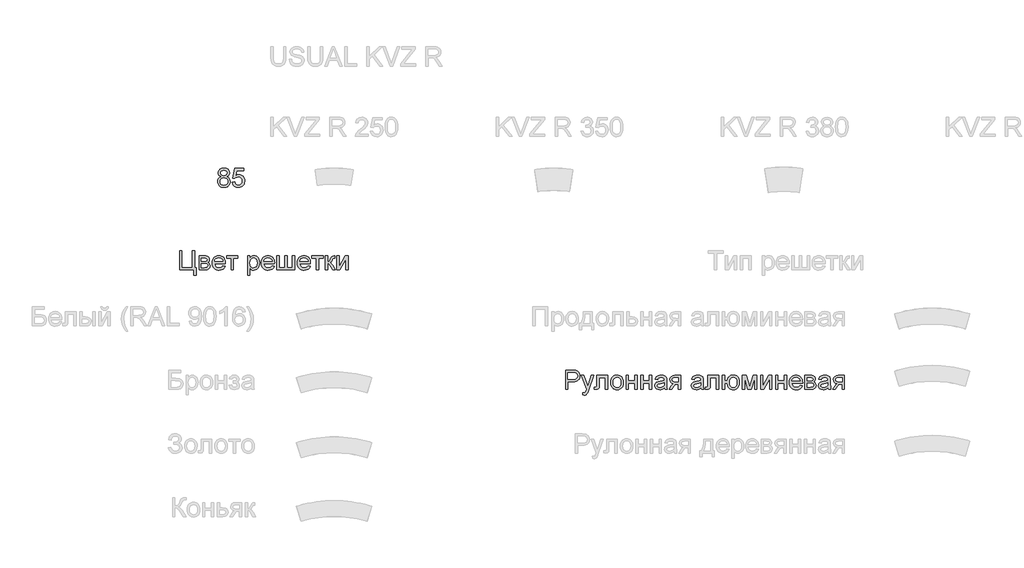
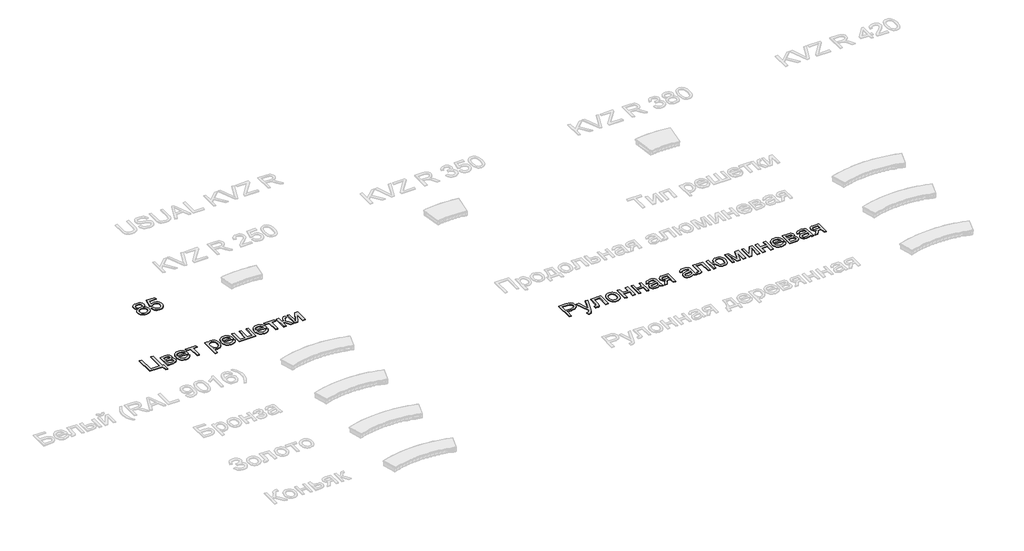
# One storey, part 5 of 9: 3 proxies.
"""IFC4 building model written with IfcOpenShell, lengths in millimetres."""

from ifc_helpers import new_model, si_unit, origin, origin_with_axes, place, context, project, spatial, polyline, outline, extrude, element, save

model = new_model("IFC4")

# Units and contexts
model_context = context("Model", 3, world=origin())
ifc_project = project(units=[si_unit("LENGTHUNIT", "METRE", prefix="MILLI")], contexts=[model_context])

# Site, building, storey
site = spatial("IfcSite", under=ifc_project)
building = spatial("IfcBuilding", under=site)
storey = spatial("IfcBuildingStorey", under=building, Name="Уровень 1", Elevation=0.0)

# Proxies
placement = place(None, origin())
element("IfcBuildingElementProxy", 1, Name="Текст модели 1", ObjectType="Текст модели 1", at=placement, inside=storey, context=model_context, shape_type="SweptSolid", body=[
    extrude(outline(polyline([(251.719691, -380.8897489), (231.5505606, -370.9569351), (217.3963008, -357.492454), (209.0361825, -340.7722173), (206.2494764, -321.0721365), (207.7669896, -305.7084647), (212.3195293, -291.6231828), (219.9070955, -278.8162908), (230.5296881, -267.2877888), (243.6768709, -257.7596451), (258.8382076, -250.9538282), (295.2033428, -245.5091747), (331.7892072, -251.0825869), (347.1160909, -258.0493522), (360.4656088, -267.8028236), (371.2813394, -279.5566533), (379.0068613, -292.5244937), (383.6421745, -306.7063446), (385.1872788, -322.1022061), (382.4373609, -341.1676905), (374.1876072, -357.6028186), (360.3460471, -370.9845262), (340.8207102, -380.8897489), (364.006473, -392.8367167), (380.8830595, -410.4306731), (391.1745583, -432.8254896), (394.6050579, -459.1750375), (392.9036037, -477.9646104), (387.799241, -495.1906848), (379.2919699, -510.8532608), (367.3817903, -524.9523382), (352.6941016, -536.6050004), (335.8543033, -544.9283306), (316.8623953, -549.9223287), (295.7183776, -551.5869947), (274.5743599, -549.9154309), (255.5824519, -544.9007394), (238.7426536, -536.5429203), (224.0549649, -524.8419736), (212.1447854, -510.6440279), (203.6375142, -494.7952117), (198.5331515, -477.295525), (196.8316973, -458.1449679), (200.4001527, -430.7745475), (211.1055187, -408.2601694), (228.3959725, -391.3743858), (251.719691, -380.8897489)]), holes=[polyline([(234.5028136, -456.8205927), (240.7935957, -485.1842946), (249.503202, -497.3519915), (263.0504564, -506.4110857), (279.2740524, -512.0396802), (296.0126832, -513.9158784), (321.6540583, -509.970344), (340.8942866, -498.1337408), (352.9240279, -480.2086906), (356.9339416, -457.9978151), (352.7952692, -435.4098606), (340.3792518, -417.0893372), (320.6975651, -404.9492314), (294.7618844, -400.9025295), (269.4791943, -404.8940491), (250.432104, -416.868608), (238.4851362, -434.8396435), (234.5028136, -456.8205927)]), polyline([(243.9205927, -322.1757825), (247.2591218, -338.6201077), (257.2747091, -351.7534949), (273.673049, -360.3619336), (296.159836, -363.2314132), (318.1223911, -360.3803277), (334.2724107, -351.8270713), (344.2052246, -339.1351425), (347.5161625, -323.8680397), (344.09486, -308.0215227), (333.8309523, -294.9157266), (317.4602035, -286.1141499), (295.7183776, -283.180291), (273.8385959, -286.0497706), (257.4954383, -294.6582093), (247.3143041, -307.2765617), (243.9205927, -322.1757825)])]), origin_with_axes(), (0.0, 0.0, 1.0), 10.0),
    extrude(outline(polyline([(427.5672847, -466.826983), (465.238401, -462.1180935), (472.1545825, -484.7336391), (484.2211119, -500.9296439), (501.382807, -510.6693198), (523.5844854, -513.9158784), (550.5870239, -509.4001269), (570.8205336, -495.8528724), (583.4572801, -474.8376134), (587.669529, -447.9178484), (583.7239946, -422.570779), (571.8873914, -403.1833978), (552.0677489, -390.8777451), (524.1730966, -386.7758608), (505.8985585, -388.4129357), (491.1005052, -393.3241604), (469.9472905, -410.3203085), (432.2761742, -405.611419), (465.238401, -250.2180642), (611.2139767, -250.2180642), (611.2139767, -287.8891805), (495.6990302, -287.8891805), (479.5857988, -370.8833587), (506.4963667, -354.5493981), (534.6945217, -349.1047445), (553.0403369, -350.7924032), (569.8916316, -355.8553791), (585.2484056, -364.2936724), (599.110659, -376.107283), (610.586278, -390.5742424), (618.7831487, -406.9725824), (623.7012711, -425.3023028), (625.3406453, -445.5634037), (619.4361393, -483.23452), (612.0555067, -500.0283331), (601.7226212, -515.4609828), (586.0692423, -531.266113), (567.8039012, -542.5554917), (546.926598, -549.3291189), (523.4373326, -551.5869947), (486.437601, -545.7836562), (470.7589302, -538.5294831), (456.9610561, -528.3736408), (445.4808386, -515.821967), (436.7551375, -501.3802994), (427.5672847, -466.826983)])), origin_with_axes(), (0.0, 0.0, 1.0), 10.0),
])
element("IfcBuildingElementProxy", 2, Name="Текст модели 1", ObjectType="Текст модели 1", at=placement, inside=storey, context=model_context, shape_type="SweptSolid", body=[
    extrude(outline(polyline([(-401.6170917, -1545.5091747), (-363.9459754, -1545.5091747), (-363.9459754, -1809.2069888), (-203.8437311, -1809.2069888), (-203.8437311, -1545.5091747), (-166.1726148, -1545.5091747), (-166.1726148, -1809.2069888), (-137.9192775, -1809.2069888), (-137.9192775, -1931.6381168), (-175.5903938, -1931.6381168), (-175.5903938, -1846.8781051), (-401.6170917, -1846.8781051), (-401.6170917, -1545.5091747)])), origin_with_axes(), (0.0, 0.0, 1.0), 10.0),
    extrude(outline(polyline([(-95.5392717, -1625.5602968), (-12.5450936, -1625.5602968), (14.1355481, -1626.8202927), (32.9619092, -1630.6002802), (46.8126663, -1637.7371909), (58.5664961, -1649.0679563), (66.5955206, -1663.8292214), (69.2718621, -1681.2576309), (67.6531814, -1695.3015261), (62.797139, -1707.4140408), (54.685341, -1717.6503573), (43.2993933, -1726.0656579), (57.2421209, -1733.8923474), (68.6096746, -1746.4831087), (76.1696496, -1762.8446604), (78.6896412, -1781.9837212), (72.3068886, -1810.6969109), (57.1317563, -1830.9120266), (33.109062, -1842.8865855), (0.1836235, -1846.8781051), (-95.5392717, -1846.8781051), (-95.5392717, -1625.5602968)]), holes=[polyline([(-57.8681554, -1710.3203085), (-20.6384975, -1710.3203085), (10.0796491, -1708.4073222), (25.0156581, -1700.7553767), (29.9544739, -1694.4278063), (31.6007458, -1686.9230136), (28.7128722, -1675.6842187), (20.0492512, -1668.4553375), (4.3958723, -1664.5373942), (-19.4612751, -1663.2314132), (-57.8681554, -1663.2314132), (-57.8681554, -1710.3203085)]), polyline([(-57.8681554, -1809.2069888), (-11.6621768, -1809.2069888), (13.5193458, -1807.5055346), (29.3198775, -1802.4011719), (37.7995575, -1793.1213486), (41.0185249, -1778.8935124), (39.4090412, -1769.4665363), (34.58059, -1760.7569301), (27.1677678, -1753.9419161), (17.805171, -1750.1987168), (-15.3409967, -1747.9914248), (-57.8681554, -1747.9914248), (-57.8681554, -1809.2069888)])]), origin_with_axes(), (0.0, 0.0, 1.0), 10.0),
    extrude(outline(polyline([(280.730433, -1780.9536516), (317.6657853, -1785.6625411), (304.3576541, -1813.4928141), (283.1216659, -1834.2965409), (254.4360674, -1847.2643812), (218.779105, -1851.5869947), (195.4048027, -1849.7222928), (174.5780833, -1844.1281872), (156.2989466, -1834.8046779), (140.5673928, -1821.7517649), (127.9168507, -1805.3327316), (118.8807492, -1785.9108615), (113.4590883, -1763.4861546), (111.651868, -1738.058611), (113.4774824, -1711.7688439), (118.9543256, -1688.5968767), (128.0823976, -1668.5427095), (140.8616984, -1651.6063421), (156.5518655, -1638.1510581), (174.4125364, -1628.540141), (194.443711, -1622.7735907), (216.6453894, -1620.8514073), (238.1319972, -1622.7689922), (257.5630643, -1628.5217469), (274.9385908, -1638.1096714), (290.2585767, -1651.5327657), (302.7642652, -1668.4323449), (311.6968999, -1688.4497239), (317.0564807, -1711.5849029), (318.8430077, -1737.8378818), (318.6222785, -1747.9914248), (149.3229843, -1747.9914248), (155.8436927, -1776.1895798), (170.9912338, -1796.9197302), (192.8526214, -1809.6668413), (219.514869, -1813.9158784), (239.5644377, -1811.9477097), (256.4502213, -1806.0432037), (270.1722197, -1795.8344783), (280.730433, -1780.9536516)]), holes=[polyline([(149.3229843, -1710.3203085), (281.1718914, -1710.3203085), (276.0767257, -1690.4178926), (266.0887296, -1676.1808594), (244.1261745, -1662.9371076), (216.4982366, -1658.5225236), (191.1051819, -1662.0449937), (170.108317, -1672.612404), (155.5125989, -1689.0843204), (149.3229843, -1710.3203085)])]), origin_with_axes(), (0.0, 0.0, 1.0), 10.0),
    extrude(outline(polyline([(337.6785658, -1625.5602968), (516.6163683, -1625.5602968), (516.6163683, -1663.2314132), (445.9830252, -1663.2314132), (445.9830252, -1846.8781051), (408.3119089, -1846.8781051), (408.3119089, -1663.2314132), (337.6785658, -1663.2314132), (337.6785658, -1625.5602968)])), origin_with_axes(), (0.0, 0.0, 1.0), 10.0),
    extrude(outline(polyline([(667.3008335, -1931.6381168), (667.3008335, -1625.5602968), (704.9719498, -1625.5602968), (704.9719498, -1662.4956492), (717.2592085, -1644.2762934), (731.0179951, -1631.2624678), (747.0576501, -1623.4541724), (766.1875138, -1620.8514073), (791.663342, -1624.4934391), (813.9385968, -1635.4195343), (832.0751791, -1652.9675055), (845.13499, -1676.475165), (853.0260588, -1704.2318615), (855.656415, -1734.5269438), (852.6857679, -1766.7442095), (843.7738266, -1795.5585668), (829.2056996, -1819.5076847), (809.2664954, -1837.1292323), (786.0439445, -1847.9725541), (761.6257771, -1851.5869947), (744.3077321, -1849.1681706), (728.8474913, -1841.9116982), (715.6129365, -1830.9580118), (704.9719498, -1817.4475455), (704.9719498, -1931.6381168), (667.3008335, -1931.6381168)]), holes=[polyline([(704.9719498, -1737.9850346), (709.0462429, -1771.7566017), (721.2691222, -1795.3746258), (739.304537, -1809.2805652), (760.8164367, -1813.9158784), (782.6778242, -1809.1150183), (801.1730916, -1794.7124382), (813.7822469, -1770.2298914), (817.9852987, -1735.1891314), (813.8834145, -1701.6015052), (801.5777617, -1677.6523874), (783.5699381, -1663.3049896), (762.3615411, -1658.5225236), (741.0703706, -1663.6084922), (722.3727682, -1678.8663979), (709.3221544, -1703.8179943), (704.9719498, -1737.9850346)])]), origin_with_axes(), (0.0, 0.0, 1.0), 10.0),
    extrude(outline(polyline([(1052.9883173, -1780.9536516), (1089.9236696, -1785.6625411), (1076.6155384, -1813.4928141), (1055.3795502, -1834.2965409), (1026.6939516, -1847.2643812), (991.0369893, -1851.5869947), (967.662687, -1849.7222928), (946.8359675, -1844.1281872), (928.5568309, -1834.8046779), (912.8252771, -1821.7517649), (900.174735, -1805.3327316), (891.1386335, -1785.9108615), (885.7169726, -1763.4861546), (883.9097523, -1738.058611), (885.7353667, -1711.7688439), (891.2122099, -1688.5968767), (900.3402819, -1668.5427095), (913.1195827, -1651.6063421), (928.8097498, -1638.1510581), (946.6704206, -1628.540141), (966.7015953, -1622.7735907), (988.9032737, -1620.8514073), (1010.3898815, -1622.7689922), (1029.8209486, -1628.5217469), (1047.1964751, -1638.1096714), (1062.5164609, -1651.5327657), (1075.0221495, -1668.4323449), (1083.9547842, -1688.4497239), (1089.314365, -1711.5849029), (1091.100892, -1737.8378818), (1090.8801628, -1747.9914248), (921.5808686, -1747.9914248), (928.1015769, -1776.1895798), (943.2491181, -1796.9197302), (965.1105057, -1809.6668413), (991.7727533, -1813.9158784), (1011.822322, -1811.9477097), (1028.7081056, -1806.0432037), (1042.430104, -1795.8344783), (1052.9883173, -1780.9536516)]), holes=[polyline([(921.5808686, -1710.3203085), (1053.4297756, -1710.3203085), (1048.33461, -1690.4178926), (1038.3466138, -1676.1808594), (1016.3840587, -1662.9371076), (988.7561209, -1658.5225236), (963.3630662, -1662.0449937), (942.3662013, -1672.612404), (927.7704831, -1689.0843204), (921.5808686, -1710.3203085)])]), origin_with_axes(), (0.0, 0.0, 1.0), 10.0),
    extrude(outline(polyline([(1128.7720083, -1625.5602968), (1166.4431246, -1625.5602968), (1166.4431246, -1809.2069888), (1251.2031363, -1809.2069888), (1251.2031363, -1625.5602968), (1288.8742526, -1625.5602968), (1288.8742526, -1809.2069888), (1373.6342642, -1809.2069888), (1373.6342642, -1625.5602968), (1411.3053806, -1625.5602968), (1411.3053806, -1846.8781051), (1128.7720083, -1846.8781051), (1128.7720083, -1625.5602968)])), origin_with_axes(), (0.0, 0.0, 1.0), 10.0),
    extrude(outline(polyline([(1618.0550618, -1780.9536516), (1654.9904142, -1785.6625411), (1641.682283, -1813.4928141), (1620.4462948, -1834.2965409), (1591.7606962, -1847.2643812), (1556.1037339, -1851.5869947), (1532.7294316, -1849.7222928), (1511.9027121, -1844.1281872), (1493.6235755, -1834.8046779), (1477.8920217, -1821.7517649), (1465.2414796, -1805.3327316), (1456.2053781, -1785.9108615), (1450.7837172, -1763.4861546), (1448.9764969, -1738.058611), (1450.8021113, -1711.7688439), (1456.2789545, -1688.5968767), (1465.4070265, -1668.5427095), (1478.1863273, -1651.6063421), (1493.8764944, -1638.1510581), (1511.7371652, -1628.540141), (1531.7683399, -1622.7735907), (1553.9700183, -1620.8514073), (1575.4566261, -1622.7689922), (1594.8876932, -1628.5217469), (1612.2632197, -1638.1096714), (1627.5832055, -1651.5327657), (1640.0888941, -1668.4323449), (1649.0215288, -1688.4497239), (1654.3811096, -1711.5849029), (1656.1676365, -1737.8378818), (1655.9469073, -1747.9914248), (1486.6476132, -1747.9914248), (1493.1683215, -1776.1895798), (1508.3158627, -1796.9197302), (1530.1772502, -1809.6668413), (1556.8394978, -1813.9158784), (1576.8890666, -1811.9477097), (1593.7748502, -1806.0432037), (1607.4968486, -1795.8344783), (1618.0550618, -1780.9536516)]), holes=[polyline([(1486.6476132, -1710.3203085), (1618.4965202, -1710.3203085), (1613.4013546, -1690.4178926), (1603.4133584, -1676.1808594), (1581.4508033, -1662.9371076), (1553.8228655, -1658.5225236), (1528.4298108, -1662.0449937), (1507.4329459, -1672.612404), (1492.8372277, -1689.0843204), (1486.6476132, -1710.3203085)])]), origin_with_axes(), (0.0, 0.0, 1.0), 10.0),
    extrude(outline(polyline([(1675.0031947, -1625.5602968), (1853.9409972, -1625.5602968), (1853.9409972, -1663.2314132), (1783.3076541, -1663.2314132), (1783.3076541, -1846.8781051), (1745.6365378, -1846.8781051), (1745.6365378, -1663.2314132), (1675.0031947, -1663.2314132), (1675.0031947, -1625.5602968)])), origin_with_axes(), (0.0, 0.0, 1.0), 10.0),
    extrude(outline(polyline([(1886.9032239, -1625.5602968), (1924.5743402, -1625.5602968), (1924.5743402, -1719.7380876), (1939.8966253, -1718.0458304), (1949.8110451, -1712.9690589), (1958.5850307, -1699.7253071), (1970.4860132, -1673.532109), (1987.6661024, -1639.5030245), (2002.8228406, -1628.4297764), (2030.377202, -1625.5602968), (2037.5876891, -1625.5602968), (2037.5876891, -1663.4521423), (2027.4341461, -1663.2314132), (2009.0400463, -1667.2045387), (1996.0906001, -1691.9997852), (1980.8970737, -1718.8183826), (1959.5967062, -1731.9517699), (1971.5344769, -1737.2538691), (1983.3618831, -1746.6118674), (2006.6856015, -1777.4955609), (2047.0054682, -1846.8781051), (2004.184004, -1846.8781051), (1964.6734777, -1778.9670888), (1944.80785, -1750.235505), (1935.5188296, -1745.0207777), (1924.5743402, -1743.2825353), (1924.5743402, -1846.8781051), (1886.9032239, -1846.8781051), (1886.9032239, -1625.5602968)])), origin_with_axes(), (0.0, 0.0, 1.0), 10.0),
    extrude(outline(polyline([(2070.5499159, -1625.5602968), (2108.2210322, -1625.5602968), (2108.2210322, -1794.3445562), (2200.7801422, -1625.5602968), (2249.4877184, -1625.5602968), (2249.4877184, -1846.8781051), (2211.8166021, -1846.8781051), (2211.8166021, -1679.1239153), (2119.8461033, -1846.8781051), (2070.5499159, -1846.8781051), (2070.5499159, -1625.5602968)])), origin_with_axes(), (0.0, 0.0, 1.0), 10.0),
])
element("IfcBuildingElementProxy", 3, Name="Текст модели 1", ObjectType="Текст модели 1", at=placement, inside=storey, context=model_context, shape_type="SweptSolid", body=[
    extrude(outline(polyline([(5665.2159718, -3726.3104311), (5665.2159718, -3424.9415006), (5776.9049455, -3424.9415006), (5821.9337017, -3427.8109802), (5842.0108616, -3433.1728603), (5858.5379603, -3441.9008606), (5871.8460914, -3454.3904543), (5882.2663489, -3471.0371146), (5888.9985895, -3490.6728161), (5891.2426696, -3512.1295335), (5889.7274557, -3530.6293993), (5885.1818138, -3547.6485401), (5877.6057439, -3563.1869559), (5866.9992461, -3577.2446466), (5852.4380169, -3588.8973088), (5832.9977527, -3597.220639), (5808.6784536, -3602.2146371), (5779.4801195, -3603.8793031), (5702.8870881, -3603.8793031), (5702.8870881, -3726.3104311), (5665.2159718, -3726.3104311)]), holes=[polyline([(5702.8870881, -3566.2081868), (5781.6874115, -3566.2081868), (5815.0910966, -3562.750096), (5837.1640163, -3552.3758238), (5849.4696691, -3535.7291635), (5853.5715533, -3513.4539087), (5851.1527292, -3496.5313369), (5843.8962568, -3482.2575155), (5832.7034471, -3471.5153612), (5818.475611, -3465.1877909), (5780.8044947, -3462.6126169), (5702.8870881, -3462.6126169), (5702.8870881, -3566.2081868)])]), origin_with_axes(), (0.0, 0.0, 1.0), 10.0),
    extrude(outline(polyline([(5938.331565, -3811.0704428), (5933.6226755, -3774.797278), (5952.7525392, -3778.108216), (5970.6316042, -3773.9511495), (5981.5944876, -3762.3628666), (5991.8951835, -3734.6245642), (5994.8382395, -3725.5010907), (5914.7871173, -3504.9926228), (5954.5183728, -3504.9926228), (5996.971955, -3627.8652092), (6011.7608112, -3677.0142437), (6026.5496675, -3633.6041683), (6070.1804721, -3504.9926228), (6109.617422, -3504.9926228), (6032.5829322, -3731.6079318), (6012.5701516, -3780.7569664), (6002.3246381, -3796.4471335), (5990.7179611, -3807.3180464), (5977.235086, -3813.6640108), (5961.3609779, -3815.7793323), (5938.331565, -3811.0704428)])), origin_with_axes(), (0.0, 0.0, 1.0), 10.0),
    extrude(outline(polyline([(6159.6493733, -3504.9926228), (6329.1693967, -3504.9926228), (6329.1693967, -3726.0897019), (6291.4982804, -3726.0897019), (6291.4982804, -3542.6637391), (6197.3204896, -3542.6637391), (6197.3204896, -3648.2458717), (6194.7821038, -3696.9534479), (6190.0272291, -3707.9807107), (6180.8393762, -3717.5180514), (6166.8966486, -3724.1123362), (6147.8771495, -3726.3104311), (6117.2693675, -3724.3974447), (6117.2693675, -3688.6393148), (6134.1183628, -3688.6393148), (6151.1512992, -3686.3216582), (6157.9571161, -3678.9640183), (6159.6493733, -3646.1121561), (6159.6493733, -3504.9926228)])), origin_with_axes(), (0.0, 0.0, 1.0), 10.0),
    extrude(outline(polyline([(6376.2582921, -3615.6515269), (6378.2954386, -3586.988921), (6384.4068783, -3562.2902435), (6394.592611, -3541.5554946), (6408.8526368, -3524.7846741), (6423.2092317, -3514.0655125), (6439.0557486, -3506.4089685), (6456.3921877, -3501.815042), (6475.2185488, -3500.2837332), (6496.0015822, -3502.1484351), (6514.7934544, -3507.7425407), (6531.5941653, -3517.06605), (6546.4037148, -3530.1189631), (6558.4909376, -3546.4598214), (6567.1246682, -3565.6471667), (6572.3049066, -3587.680999), (6574.0316527, -3612.5613182), (6570.9782321, -3650.6187106), (6561.8179704, -3679.5894177), (6546.8175821, -3701.2852584), (6526.2437815, -3717.5180514), (6501.80722, -3727.6440033), (6475.2185488, -3731.0193206), (6454.1320127, -3729.1615165), (6435.1653965, -3723.5881043), (6418.3187004, -3714.2990839), (6403.5919243, -3701.2944554), (6391.6334602, -3684.7949479), (6383.0917001, -3665.0212907), (6377.9666441, -3641.9734837), (6376.2582921, -3615.6515269)]), holes=[polyline([(6413.9294084, -3615.5779505), (6418.28881, -3649.6714144), (6431.3670149, -3673.9608232), (6451.0487017, -3688.501359), (6475.2185488, -3693.3482043), (6499.2780313, -3688.4737679), (6518.9229298, -3673.8504586), (6532.0011347, -3649.2391531), (6536.3605364, -3614.4007281), (6531.9735436, -3581.3005456), (6518.8125652, -3557.3422307), (6499.1400755, -3542.8016948), (6475.2185488, -3537.9548496), (6451.0487017, -3542.7833007), (6431.3670149, -3557.2686543), (6418.28881, -3581.5028807), (6413.9294084, -3615.5779505)])]), origin_with_axes(), (0.0, 0.0, 1.0), 10.0),
    extrude(outline(polyline([(6616.4116585, -3504.9926228), (6654.0827748, -3504.9926228), (6654.0827748, -3589.7526345), (6752.9694551, -3589.7526345), (6752.9694551, -3504.9926228), (6790.6405714, -3504.9926228), (6790.6405714, -3726.3104311), (6752.9694551, -3726.3104311), (6752.9694551, -3627.4237508), (6654.0827748, -3627.4237508), (6654.0827748, -3726.3104311), (6616.4116585, -3726.3104311), (6616.4116585, -3504.9926228)])), origin_with_axes(), (0.0, 0.0, 1.0), 10.0),
    extrude(outline(polyline([(6847.1472459, -3504.9926228), (6884.8183622, -3504.9926228), (6884.8183622, -3589.7526345), (6983.7050425, -3589.7526345), (6983.7050425, -3504.9926228), (7021.3761588, -3504.9926228), (7021.3761588, -3726.3104311), (6983.7050425, -3726.3104311), (6983.7050425, -3627.4237508), (6884.8183622, -3627.4237508), (6884.8183622, -3726.3104311), (6847.1472459, -3726.3104311), (6847.1472459, -3504.9926228)])), origin_with_axes(), (0.0, 0.0, 1.0), 10.0),
    extrude(outline(polyline([(7219.1495194, -3698.0570939), (7201.1508928, -3713.4897435), (7182.6188373, -3723.5881043), (7163.1302886, -3729.1615165), (7142.2621824, -3731.0193206), (7110.7806807, -3726.5495544), (7087.5581297, -3713.1402557), (7073.2383231, -3692.7779872), (7068.4650542, -3667.4493119), (7070.267676, -3651.8327212), (7075.6755413, -3637.6508702), (7084.0172655, -3625.5107644), (7094.6214641, -3616.0194089), (7120.9986031, -3603.6585739), (7153.5929479, -3597.9931912), (7192.1101928, -3592.0335028), (7218.9287902, -3585.0437449), (7219.1495194, -3576.6560354), (7216.5559514, -3559.8438283), (7208.7752472, -3548.8441566), (7191.3744288, -3540.6771763), (7167.1310053, -3537.9548496), (7144.6902036, -3539.7666684), (7129.0184306, -3545.2021249), (7118.3314586, -3555.2545004), (7110.84506, -3570.9170763), (7073.1739437, -3566.2081868), (7079.7130462, -3545.6067951), (7089.4711161, -3529.4199873), (7103.3586614, -3517.0407581), (7122.2861901, -3507.8621023), (7145.4351646, -3502.1783255), (7171.9870476, -3500.2837332), (7197.4536788, -3501.9575963), (7217.6412032, -3506.9791856), (7232.8623208, -3514.5299635), (7243.4297311, -3523.7913927), (7250.4378831, -3535.2417198), (7254.9812257, -3549.3591914), (7256.8206357, -3582.3214182), (7256.8206357, -3629.1895844), (7258.7336221, -3694.6357913), (7266.2384148, -3726.3104311), (7228.5672985, -3726.3104311), (7219.1495194, -3698.0570939)]), holes=[polyline([(7219.1495194, -3622.7148612), (7158.3754138, -3634.2663559), (7125.96501, -3640.373197), (7111.2865184, -3650.3060109), (7106.1361705, -3664.8005615), (7108.9412707, -3676.0025682), (7117.3565714, -3685.181224), (7131.1981314, -3691.3064592), (7150.2820099, -3693.3482043), (7170.5155197, -3691.0949271), (7188.3945846, -3684.3350954), (7202.8891352, -3674.3746904), (7212.9691019, -3662.5196931), (7217.4388681, -3650.3060109), (7218.9287902, -3633.3834391), (7219.1495194, -3622.7148612)])]), origin_with_axes(), (0.0, 0.0, 1.0), 10.0),
    extrude(outline(polyline([(7478.138444, -3504.9926228), (7478.138444, -3726.3104311), (7440.4673277, -3726.3104311), (7440.4673277, -3641.5504194), (7419.9395124, -3641.5504194), (7391.9804808, -3646.3328853), (7380.8152622, -3656.7623399), (7365.7137063, -3678.4857717), (7335.6945355, -3726.3104311), (7292.1373073, -3726.3104311), (7329.9555764, -3665.8306311), (7346.6574189, -3644.1255934), (7362.0348863, -3634.4870851), (7336.2831467, -3626.5960163), (7318.1833525, -3611.604825), (7307.4779865, -3591.6656208), (7303.9095311, -3568.9305135), (7308.7839675, -3543.1419857), (7323.4072769, -3522.724535), (7347.2644242, -3509.4256008), (7379.8403749, -3504.9926228), (7478.138444, -3504.9926228)]), holes=[polyline([(7440.4673277, -3542.6637391), (7390.8032584, -3542.6637391), (7365.1526863, -3544.8434399), (7350.5937563, -3551.3825424), (7343.8339246, -3560.8463067), (7341.5806474, -3571.7999931), (7344.9007824, -3586.156588), (7354.8611874, -3596.116993), (7373.2644842, -3601.9387256), (7401.9132946, -3603.8793031), (7440.4673277, -3603.8793031), (7440.4673277, -3542.6637391)])]), origin_with_axes(), (0.0, 0.0, 1.0), 10.0),
    extrude(outline(polyline([(7793.6340431, -3698.0570939), (7775.6354165, -3713.4897435), (7757.103361, -3723.5881043), (7737.6148123, -3729.1615165), (7716.7467061, -3731.0193206), (7685.2652044, -3726.5495544), (7662.0426534, -3713.1402557), (7647.7228467, -3692.7779872), (7642.9495779, -3667.4493119), (7644.7521996, -3651.8327212), (7650.160065, -3637.6508702), (7658.5017892, -3625.5107644), (7669.1059877, -3616.0194089), (7695.4831268, -3603.6585739), (7728.0774715, -3597.9931912), (7766.5947164, -3592.0335028), (7793.4133139, -3585.0437449), (7793.6340431, -3576.6560354), (7791.040475, -3559.8438283), (7783.2597708, -3548.8441566), (7765.8589525, -3540.6771763), (7741.615529, -3537.9548496), (7719.1747273, -3539.7666684), (7703.5029543, -3545.2021249), (7692.8159823, -3555.2545004), (7685.3295837, -3570.9170763), (7647.6584674, -3566.2081868), (7654.1975699, -3545.6067951), (7663.9556398, -3529.4199873), (7677.8431851, -3517.0407581), (7696.7707138, -3507.8621023), (7719.9196883, -3502.1783255), (7746.4715713, -3500.2837332), (7771.9382024, -3501.9575963), (7792.1257269, -3506.9791856), (7807.3468445, -3514.5299635), (7817.9142548, -3523.7913927), (7824.9224068, -3535.2417198), (7829.4657494, -3549.3591914), (7831.3051594, -3582.3214182), (7831.3051594, -3629.1895844), (7833.2181458, -3694.6357913), (7840.7229385, -3726.3104311), (7803.0518222, -3726.3104311), (7793.6340431, -3698.0570939)]), holes=[polyline([(7793.6340431, -3622.7148612), (7732.8599375, -3634.2663559), (7700.4495337, -3640.373197), (7685.7710421, -3650.3060109), (7680.6206942, -3664.8005615), (7683.4257944, -3676.0025682), (7691.841095, -3685.181224), (7705.6826551, -3691.3064592), (7724.7665336, -3693.3482043), (7745.0000433, -3691.0949271), (7762.8791083, -3684.3350954), (7777.3736589, -3674.3746904), (7787.4536256, -3662.5196931), (7791.9233918, -3650.3060109), (7793.4133139, -3633.3834391), (7793.6340431, -3622.7148612)])]), origin_with_axes(), (0.0, 0.0, 1.0), 10.0),
    extrude(outline(polyline([(7901.9385025, -3504.9926228), (8071.4585258, -3504.9926228), (8071.4585258, -3726.0897019), (8033.7874095, -3726.0897019), (8033.7874095, -3542.6637391), (7939.6096188, -3542.6637391), (7939.6096188, -3648.2458717), (7937.071233, -3696.9534479), (7932.3163582, -3707.9807107), (7923.1285054, -3717.5180514), (7909.1857778, -3724.1123362), (7890.1662786, -3726.3104311), (7859.5584966, -3724.3974447), (7859.5584966, -3688.6393148), (7876.407492, -3688.6393148), (7893.4404284, -3686.3216582), (7900.2462453, -3678.9640183), (7901.9385025, -3646.1121561), (7901.9385025, -3504.9926228)])), origin_with_axes(), (0.0, 0.0, 1.0), 10.0),
    extrude(outline(polyline([(8127.9652003, -3504.9926228), (8165.6363166, -3504.9926228), (8165.6363166, -3589.7526345), (8208.0163225, -3589.7526345), (8217.7927865, -3551.3457542), (8226.3161525, -3536.005075), (8237.2629411, -3523.2395697), (8250.3250512, -3513.1963913), (8265.1943816, -3506.0226924), (8300.3547032, -3500.2837332), (8329.9048245, -3503.6590506), (8352.483582, -3513.7850025), (8369.9027944, -3529.8338545), (8383.9742807, -3550.9778722), (8393.2724982, -3578.789751), (8396.371904, -3614.8421865), (8394.769318, -3641.6975722), (8389.9615602, -3665.0948671), (8381.9486305, -3685.0340712), (8370.7305289, -3701.5151846), (8356.7671079, -3714.4232441), (8340.5182201, -3723.6432866), (8321.9838653, -3729.1753121), (8301.1640436, -3731.0193206), (8281.7605676, -3729.2902752), (8264.3850412, -3724.1031391), (8249.0374642, -3715.4579122), (8235.7178367, -3703.3545946), (8224.7572525, -3688.2346446), (8216.4868054, -3670.5395206), (8208.0163225, -3627.4237508), (8165.6363166, -3627.4237508), (8165.6363166, -3726.3104311), (8127.9652003, -3726.3104311), (8127.9652003, -3504.9926228)]), holes=[polyline([(8302.7827244, -3537.9548496), (8278.7692272, -3542.829286), (8260.7338124, -3557.4525953), (8249.4490322, -3580.8682843), (8245.6874388, -3612.1198598), (8249.4766233, -3648.5309803), (8260.844177, -3673.740094), (8278.557695, -3688.4461767), (8301.3847728, -3693.3482043), (8324.27623, -3688.8140587), (8342.6243445, -3675.211622), (8354.6816769, -3651.5108244), (8358.7007877, -3616.6815965), (8355.2243028, -3582.2386447), (8344.7948483, -3557.6365363), (8327.3388476, -3542.8752712), (8302.7827244, -3537.9548496)])]), origin_with_axes(), (0.0, 0.0, 1.0), 10.0),
    extrude(outline(polyline([(8443.4607994, -3504.9926228), (8508.2816069, -3504.9926228), (8558.2399819, -3682.1645917), (8612.097906, -3504.9926228), (8674.1963867, -3504.9926228), (8674.1963867, -3726.3104311), (8636.5252704, -3726.3104311), (8636.5252704, -3548.1083926), (8582.3730407, -3726.3104311), (8532.9297006, -3726.3104311), (8481.1319157, -3539.5735303), (8481.1319157, -3726.3104311), (8443.4607994, -3726.3104311), (8443.4607994, -3504.9926228)])), origin_with_axes(), (0.0, 0.0, 1.0), 10.0),
    extrude(outline(polyline([(8730.7030612, -3504.9926228), (8768.3741775, -3504.9926228), (8768.3741775, -3673.7768822), (8860.9332875, -3504.9926228), (8909.6408637, -3504.9926228), (8909.6408637, -3726.3104311), (8871.9697473, -3726.3104311), (8871.9697473, -3558.5562413), (8779.9992486, -3726.3104311), (8730.7030612, -3726.3104311), (8730.7030612, -3504.9926228)])), origin_with_axes(), (0.0, 0.0, 1.0), 10.0),
    extrude(outline(polyline([(8966.1475381, -3504.9926228), (9003.8186544, -3504.9926228), (9003.8186544, -3589.7526345), (9102.7053347, -3589.7526345), (9102.7053347, -3504.9926228), (9140.376451, -3504.9926228), (9140.376451, -3726.3104311), (9102.7053347, -3726.3104311), (9102.7053347, -3627.4237508), (9003.8186544, -3627.4237508), (9003.8186544, -3726.3104311), (8966.1475381, -3726.3104311), (8966.1475381, -3504.9926228)])), origin_with_axes(), (0.0, 0.0, 1.0), 10.0),
    extrude(outline(polyline([(9351.8350219, -3660.3859775), (9388.7703742, -3665.0948671), (9375.462243, -3692.92514), (9354.2262548, -3713.7288668), (9325.5406563, -3726.6967072), (9289.8836939, -3731.0193206), (9266.5093916, -3729.1546188), (9245.6826721, -3723.5605132), (9227.4035355, -3714.2370039), (9211.6719817, -3701.1840908), (9199.0214396, -3684.7650575), (9189.9853381, -3665.3431874), (9184.5636772, -3642.9184806), (9182.7564569, -3617.4909369), (9184.5820713, -3591.2011698), (9190.0589145, -3568.0292027), (9199.1869865, -3547.9750354), (9211.9662873, -3531.038668), (9227.6564544, -3517.5833841), (9245.5171253, -3507.9724669), (9265.5482999, -3502.2059167), (9287.7499783, -3500.2837332), (9309.2365861, -3502.2013181), (9328.6676532, -3507.9540728), (9346.0431797, -3517.5419973), (9361.3631655, -3530.9650916), (9373.8688541, -3547.8646708), (9382.8014888, -3567.8820499), (9388.1610696, -3591.0172288), (9389.9475966, -3617.2702077), (9389.7268674, -3627.4237508), (9220.4275732, -3627.4237508), (9226.9482815, -3655.6219057), (9242.0958227, -3676.3520561), (9263.9572103, -3689.0991673), (9290.6194579, -3693.3482043), (9310.6690266, -3691.3800356), (9327.5548102, -3685.4755296), (9341.2768086, -3675.2668043), (9351.8350219, -3660.3859775)]), holes=[polyline([(9220.4275732, -3589.7526345), (9352.2764803, -3589.7526345), (9347.1813146, -3569.8502185), (9337.1933184, -3555.6131853), (9315.2307633, -3542.3694335), (9287.6028255, -3537.9548496), (9262.2097708, -3541.4773197), (9241.2129059, -3552.04473), (9226.6171877, -3568.5166463), (9220.4275732, -3589.7526345)])]), origin_with_axes(), (0.0, 0.0, 1.0), 10.0),
    extrude(outline(polyline([(9427.6187129, -3504.9926228), (9510.612891, -3504.9926228), (9537.2935327, -3506.2526186), (9556.1198938, -3510.0326061), (9569.9706509, -3517.1695168), (9581.7244806, -3528.5002823), (9589.7535052, -3543.2615473), (9592.4298467, -3560.6899569), (9590.8111659, -3574.733852), (9585.9551236, -3586.8463667), (9577.8433256, -3597.0826832), (9566.4573778, -3605.4979839), (9580.4001055, -3613.3246733), (9591.7676591, -3625.9154346), (9599.3276341, -3642.2769863), (9601.8476258, -3661.4160471), (9595.4648732, -3690.1292369), (9580.2897409, -3710.3443525), (9556.2670466, -3722.3189114), (9523.341608, -3726.3104311), (9427.6187129, -3726.3104311), (9427.6187129, -3504.9926228)]), holes=[polyline([(9465.2898292, -3589.7526345), (9502.5194871, -3589.7526345), (9533.2376337, -3587.8396481), (9548.1736427, -3580.1877026), (9553.1124585, -3573.8601323), (9554.7587304, -3566.3553396), (9551.8708567, -3555.1165446), (9543.2072357, -3547.8876634), (9527.5538569, -3543.9697202), (9503.6967095, -3542.6637391), (9465.2898292, -3542.6637391), (9465.2898292, -3589.7526345)]), polyline([(9465.2898292, -3688.6393148), (9511.4958078, -3688.6393148), (9536.6773303, -3686.9378605), (9552.477862, -3681.8334979), (9560.957542, -3672.5536745), (9564.1765095, -3658.3258384), (9562.5670257, -3648.8988622), (9557.7385746, -3640.189256), (9550.3257524, -3633.3742421), (9540.9631556, -3629.6310427), (9507.8169878, -3627.4237508), (9465.2898292, -3627.4237508), (9465.2898292, -3688.6393148)])]), origin_with_axes(), (0.0, 0.0, 1.0), 10.0),
    extrude(outline(polyline([(9790.2032073, -3698.0570939), (9772.2045807, -3713.4897435), (9753.6725252, -3723.5881043), (9734.1839765, -3729.1615165), (9713.3158703, -3731.0193206), (9681.8343686, -3726.5495544), (9658.6118176, -3713.1402557), (9644.292011, -3692.7779872), (9639.5187421, -3667.4493119), (9641.3213639, -3651.8327212), (9646.7292292, -3637.6508702), (9655.0709534, -3625.5107644), (9665.6751519, -3616.0194089), (9692.052291, -3603.6585739), (9724.6466358, -3597.9931912), (9763.1638807, -3592.0335028), (9789.9824781, -3585.0437449), (9790.2032073, -3576.6560354), (9787.6096392, -3559.8438283), (9779.828935, -3548.8441566), (9762.4281167, -3540.6771763), (9738.1846932, -3537.9548496), (9715.7438915, -3539.7666684), (9700.0721185, -3545.2021249), (9689.3851465, -3555.2545004), (9681.8987479, -3570.9170763), (9644.2276316, -3566.2081868), (9650.7667341, -3545.6067951), (9660.524804, -3529.4199873), (9674.4123493, -3517.0407581), (9693.339878, -3507.8621023), (9716.4888525, -3502.1783255), (9743.0407355, -3500.2837332), (9768.5073666, -3501.9575963), (9788.6948911, -3506.9791856), (9803.9160087, -3514.5299635), (9814.483419, -3523.7913927), (9821.491571, -3535.2417198), (9826.0349136, -3549.3591914), (9827.8743236, -3582.3214182), (9827.8743236, -3629.1895844), (9829.78731, -3694.6357913), (9837.2921027, -3726.3104311), (9799.6209864, -3726.3104311), (9790.2032073, -3698.0570939)]), holes=[polyline([(9790.2032073, -3622.7148612), (9729.4291017, -3634.2663559), (9697.0186979, -3640.373197), (9682.3402063, -3650.3060109), (9677.1898584, -3664.8005615), (9679.9949586, -3676.0025682), (9688.4102592, -3685.181224), (9702.2518193, -3691.3064592), (9721.3356978, -3693.3482043), (9741.5692075, -3691.0949271), (9759.4482725, -3684.3350954), (9773.9428231, -3674.3746904), (9784.0227898, -3662.5196931), (9788.492556, -3650.3060109), (9789.9824781, -3633.3834391), (9790.2032073, -3622.7148612)])]), origin_with_axes(), (0.0, 0.0, 1.0), 10.0),
    extrude(outline(polyline([(10049.1921319, -3504.9926228), (10049.1921319, -3726.3104311), (10011.5210156, -3726.3104311), (10011.5210156, -3641.5504194), (9990.9932003, -3641.5504194), (9963.0341686, -3646.3328853), (9951.8689501, -3656.7623399), (9936.7673942, -3678.4857717), (9906.7482234, -3726.3104311), (9863.1909952, -3726.3104311), (9901.0092643, -3665.8306311), (9917.7111068, -3644.1255934), (9933.0885742, -3634.4870851), (9907.3368346, -3626.5960163), (9889.2370404, -3611.604825), (9878.5316744, -3591.6656208), (9874.963219, -3568.9305135), (9879.8376554, -3543.1419857), (9894.4609647, -3522.724535), (9918.3181121, -3509.4256008), (9950.8940628, -3504.9926228), (10049.1921319, -3504.9926228)]), holes=[polyline([(10011.5210156, -3542.6637391), (9961.8569463, -3542.6637391), (9936.2063741, -3544.8434399), (9921.6474442, -3551.3825424), (9914.8876125, -3560.8463067), (9912.6343353, -3571.7999931), (9915.9544703, -3586.156588), (9925.9148753, -3596.116993), (9944.3181721, -3601.9387256), (9972.9669825, -3603.8793031), (10011.5210156, -3603.8793031), (10011.5210156, -3542.6637391)])]), origin_with_axes(), (0.0, 0.0, 1.0), 10.0),
])

save(model, "model.ifc")
